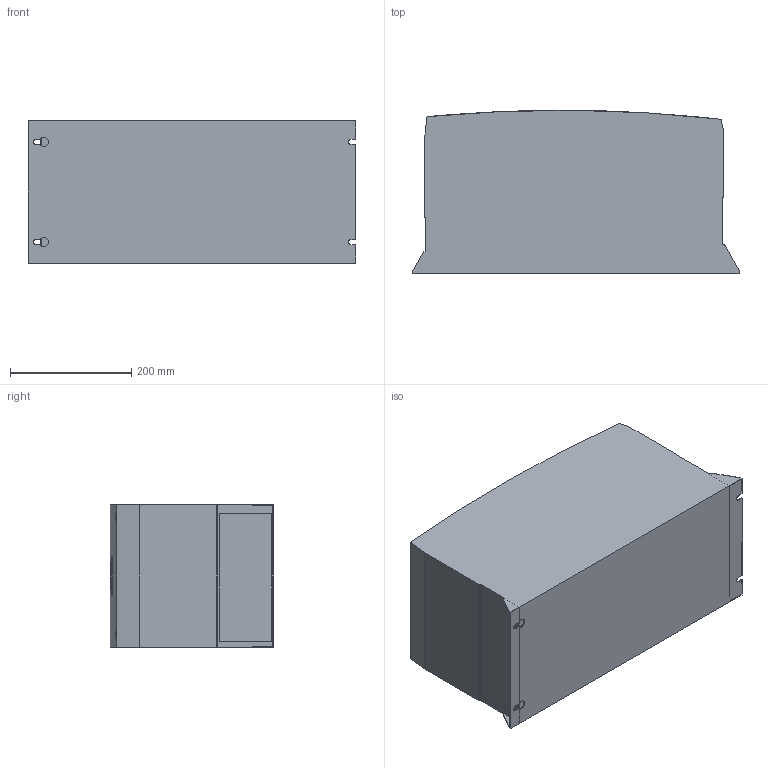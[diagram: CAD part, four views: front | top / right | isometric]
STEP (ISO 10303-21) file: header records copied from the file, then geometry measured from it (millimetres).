
FILE_DESCRIPTION (( 'STEP AP214' ), '1' );
FILE_NAME ('ECO S5 IP55.STEP', '2017-08-15T14:04:33', ( '' ), ( '' ), 'SwSTEP 2.0', 'SolidWorks 2017', '' );
FILE_SCHEMA (( 'AUTOMOTIVE_DESIGN' ));
Length unit declared in the file: millimetre
Products named in the file (1): ECO S5 IP55
Bounding box: 540 x 269.2 x 235 mm (x, y, z)
Volume: 30568597.3 mm3; surface area: 639721.2 mm2
Topology: 1 solids, 1 shells, 262 faces, 689 edges, 458 vertices
Faces by surface type: bspline 104, plane 82, cylinder 76
Entity records: 12231 total; most frequent: CARTESIAN_POINT 6674, ORIENTED_EDGE 1378, DIRECTION 723, EDGE_CURVE 689, VERTEX_POINT 458, LINE 309, VECTOR 309, EDGE_LOOP 295
